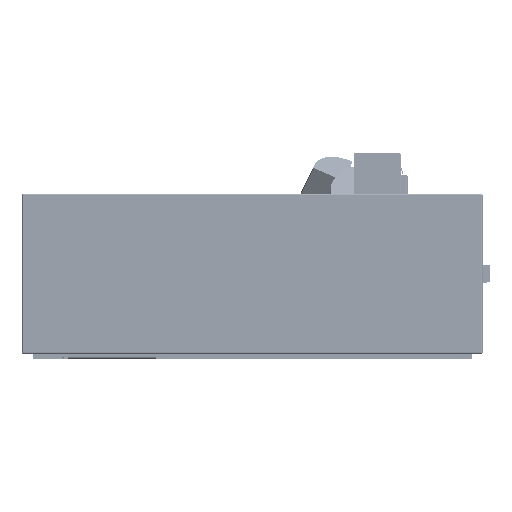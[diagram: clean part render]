
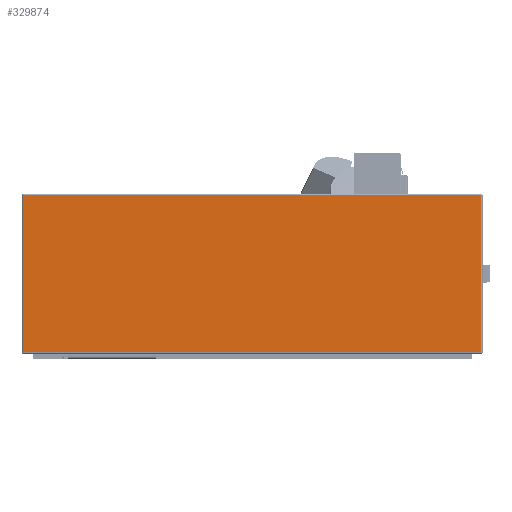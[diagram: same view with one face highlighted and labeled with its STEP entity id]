
A CAD part, left-side view. The second image highlights one B-rep face of the part: STEP entity #329874.
In plain terms, the highlighted planar face has unit normal (-1, 0, 0) as drawn and (1, 0, 0) by its records, which use the part's own axes.
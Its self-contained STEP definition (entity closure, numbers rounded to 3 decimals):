
#4272 = DIRECTION ( 'NONE',  ( 0., 0., 1. ) ) ;
#18368 = VECTOR ( 'NONE', #425879, 1000. ) ;
#66885 = VECTOR ( 'NONE', #209996, 1000. ) ;
#73489 = CARTESIAN_POINT ( 'NONE',  ( 1494.962, 861.185, 982.831 ) ) ;
#82441 = ORIENTED_EDGE ( 'NONE', *, *, #114196, .T. ) ;
#96003 = VERTEX_POINT ( 'NONE', #295307 ) ;
#96084 = ORIENTED_EDGE ( 'NONE', *, *, #355059, .T. ) ;
#103244 = CARTESIAN_POINT ( 'NONE',  ( 1494.962, 1172.685, 1196.831 ) ) ;
#111330 = LINE ( 'NONE', #73489, #212883 ) ;
#111434 = VERTEX_POINT ( 'NONE', #103244 ) ;
#114196 = EDGE_CURVE ( 'NONE', #435521, #96003, #195972, .T. ) ;
#126009 = CARTESIAN_POINT ( 'NONE',  ( 1494.962, 547.685, 1196.831 ) ) ;
#155030 = EDGE_LOOP ( 'NONE', ( #228119, #82441, #96084, #431149 ) ) ;
#173714 = FACE_OUTER_BOUND ( 'NONE', #155030, .T. ) ;
#188582 = DIRECTION ( 'NONE',  ( 0., -1., 0. ) ) ;
#195972 = LINE ( 'NONE', #358941, #18368 ) ;
#209996 = DIRECTION ( 'NONE',  ( 0., 0., 1. ) ) ;
#212883 = VECTOR ( 'NONE', #419082, 1000. ) ;
#213607 = EDGE_CURVE ( 'NONE', #334514, #111434, #386138, .T. ) ;
#218833 = CARTESIAN_POINT ( 'NONE',  ( 1494.962, 1172.685, 1089.831 ) ) ;
#224216 = CARTESIAN_POINT ( 'NONE',  ( 1494.962, 549.685, 1196.831 ) ) ;
#225496 = EDGE_CURVE ( 'NONE', #111434, #435521, #431589, .T. ) ;
#228119 = ORIENTED_EDGE ( 'NONE', *, *, #225496, .T. ) ;
#295307 = CARTESIAN_POINT ( 'NONE',  ( 1494.962, 549.685, 982.831 ) ) ;
#304829 = VECTOR ( 'NONE', #188582, 1000. ) ;
#309755 = CARTESIAN_POINT ( 'NONE',  ( 1494.962, 861.185, 1089.831 ) ) ;
#316369 = PLANE ( 'NONE',  #364653 ) ;
#329874 = ADVANCED_FACE ( 'NONE', ( #173714 ), #316369, .T. ) ;
#334514 = VERTEX_POINT ( 'NONE', #386923 ) ;
#343215 = DIRECTION ( 'NONE',  ( 1., 0., 0. ) ) ;
#355059 = EDGE_CURVE ( 'NONE', #96003, #334514, #111330, .T. ) ;
#358941 = CARTESIAN_POINT ( 'NONE',  ( 1494.962, 549.685, 1089.831 ) ) ;
#364653 = AXIS2_PLACEMENT_3D ( 'NONE', #309755, #343215, #4272 ) ;
#386138 = LINE ( 'NONE', #218833, #66885 ) ;
#386923 = CARTESIAN_POINT ( 'NONE',  ( 1494.962, 1172.685, 982.831 ) ) ;
#419082 = DIRECTION ( 'NONE',  ( 0., 1., 0. ) ) ;
#425879 = DIRECTION ( 'NONE',  ( 0., 0., -1. ) ) ;
#431149 = ORIENTED_EDGE ( 'NONE', *, *, #213607, .T. ) ;
#431589 = LINE ( 'NONE', #126009, #304829 ) ;
#435521 = VERTEX_POINT ( 'NONE', #224216 ) ;
